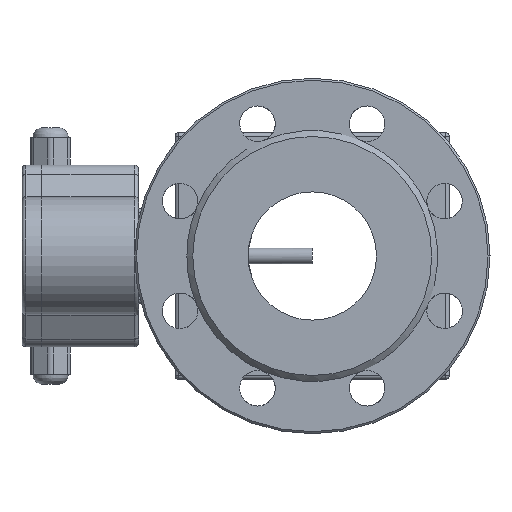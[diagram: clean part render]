
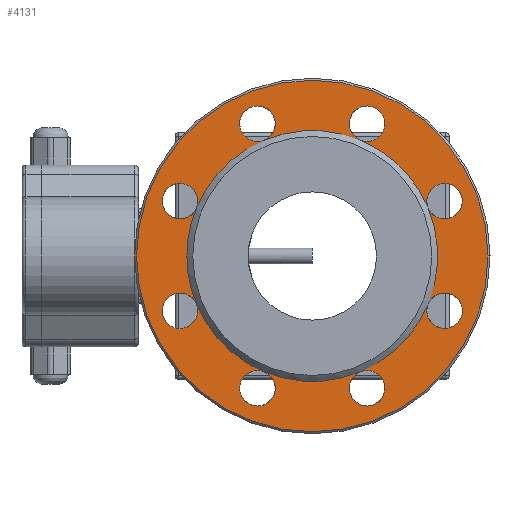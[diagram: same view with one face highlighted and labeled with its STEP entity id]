
A CAD part, left-side view. The second image highlights one B-rep face of the part: STEP entity #4131.
In plain terms, the highlighted planar face has unit normal (-1, 0, 0).
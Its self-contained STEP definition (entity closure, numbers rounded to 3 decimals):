
#4131=ADVANCED_FACE('',(#7934,#7936),#7938,.T.);
#7934=FACE_BOUND('',#7935,.T.);
#7935=EDGE_LOOP('',(#10805));
#7936=FACE_BOUND('',#7937,.T.);
#7937=EDGE_LOOP('',(#10806,#10807,#10808,#10809,#10810,#10811,#10812,#10813,#10814,
#10815,#10816,#10817,#10818,#10819,#10820,#10821,#10822,#10823,#10824,#10825,#10826,
#10827,#10828,#10829,#10830));
#7938=PLANE('',#7939);
#7939=AXIS2_PLACEMENT_3D('',#7940,#7941,#7942);
#7940=CARTESIAN_POINT('',(-117.,0.,0.));
#7941=DIRECTION('',(-1.,-0.,-0.));
#7942=DIRECTION('',(0.,1.,0.));
#10805=ORIENTED_EDGE('',*,*,#12250,.F.);
#10806=ORIENTED_EDGE('',*,*,#12156,.T.);
#10807=ORIENTED_EDGE('',*,*,#12155,.T.);
#10808=ORIENTED_EDGE('',*,*,#12251,.T.);
#10809=ORIENTED_EDGE('',*,*,#12160,.T.);
#10810=ORIENTED_EDGE('',*,*,#12159,.T.);
#10811=ORIENTED_EDGE('',*,*,#12252,.T.);
#10812=ORIENTED_EDGE('',*,*,#12168,.T.);
#10813=ORIENTED_EDGE('',*,*,#12167,.T.);
#10814=ORIENTED_EDGE('',*,*,#12253,.T.);
#10815=ORIENTED_EDGE('',*,*,#12166,.T.);
#10816=ORIENTED_EDGE('',*,*,#12165,.T.);
#10817=ORIENTED_EDGE('',*,*,#12254,.T.);
#10818=ORIENTED_EDGE('',*,*,#12161,.T.);
#10819=ORIENTED_EDGE('',*,*,#12162,.T.);
#10820=ORIENTED_EDGE('',*,*,#12255,.T.);
#10821=ORIENTED_EDGE('',*,*,#12169,.T.);
#10822=ORIENTED_EDGE('',*,*,#12170,.T.);
#10823=ORIENTED_EDGE('',*,*,#12256,.T.);
#10824=ORIENTED_EDGE('',*,*,#12257,.T.);
#10825=ORIENTED_EDGE('',*,*,#12157,.T.);
#10826=ORIENTED_EDGE('',*,*,#12158,.T.);
#10827=ORIENTED_EDGE('',*,*,#12258,.T.);
#10828=ORIENTED_EDGE('',*,*,#12163,.T.);
#10829=ORIENTED_EDGE('',*,*,#12164,.T.);
#10830=ORIENTED_EDGE('',*,*,#12259,.T.);
#12155=EDGE_CURVE('',#14340,#14341,#14342,.F.);
#12156=EDGE_CURVE('',#14341,#14340,#14343,.F.);
#12157=EDGE_CURVE('',#14344,#14345,#14346,.F.);
#12158=EDGE_CURVE('',#14345,#14344,#14347,.F.);
#12159=EDGE_CURVE('',#14348,#14349,#14350,.F.);
#12160=EDGE_CURVE('',#14349,#14348,#14351,.F.);
#12161=EDGE_CURVE('',#14352,#14353,#14354,.F.);
#12162=EDGE_CURVE('',#14353,#14352,#14355,.F.);
#12163=EDGE_CURVE('',#14356,#14357,#14358,.F.);
#12164=EDGE_CURVE('',#14357,#14356,#14359,.F.);
#12165=EDGE_CURVE('',#14360,#14361,#14362,.F.);
#12166=EDGE_CURVE('',#14361,#14360,#14363,.F.);
#12167=EDGE_CURVE('',#14364,#14365,#14366,.F.);
#12168=EDGE_CURVE('',#14365,#14364,#14367,.F.);
#12169=EDGE_CURVE('',#14368,#14369,#14370,.F.);
#12170=EDGE_CURVE('',#14369,#14368,#14371,.F.);
#12250=EDGE_CURVE('',#14504,#14504,#14505,.T.);
#12251=EDGE_CURVE('',#14341,#14349,#14506,.T.);
#12252=EDGE_CURVE('',#14349,#14365,#14507,.T.);
#12253=EDGE_CURVE('',#14365,#14361,#14508,.T.);
#12254=EDGE_CURVE('',#14361,#14352,#14509,.T.);
#12255=EDGE_CURVE('',#14352,#14368,#14510,.T.);
#12256=EDGE_CURVE('',#14368,#14511,#14512,.T.);
#12257=EDGE_CURVE('',#14511,#14344,#14513,.T.);
#12258=EDGE_CURVE('',#14344,#14356,#14514,.T.);
#12259=EDGE_CURVE('',#14356,#14341,#14515,.T.);
#14340=VERTEX_POINT('',#20485);
#14341=VERTEX_POINT('',#20486);
#14342=CIRCLE('',#20487,9.);
#14343=CIRCLE('',#20491,9.);
#14344=VERTEX_POINT('',#20495);
#14345=VERTEX_POINT('',#20496);
#14346=CIRCLE('',#20497,9.);
#14347=CIRCLE('',#20501,9.);
#14348=VERTEX_POINT('',#20505);
#14349=VERTEX_POINT('',#20506);
#14350=CIRCLE('',#20507,9.);
#14351=CIRCLE('',#20511,9.);
#14352=VERTEX_POINT('',#20515);
#14353=VERTEX_POINT('',#20516);
#14354=CIRCLE('',#20517,9.);
#14355=CIRCLE('',#20521,9.);
#14356=VERTEX_POINT('',#20525);
#14357=VERTEX_POINT('',#20526);
#14358=CIRCLE('',#20527,9.);
#14359=CIRCLE('',#20531,9.);
#14360=VERTEX_POINT('',#20535);
#14361=VERTEX_POINT('',#20536);
#14362=CIRCLE('',#20537,9.);
#14363=CIRCLE('',#20541,9.);
#14364=VERTEX_POINT('',#20545);
#14365=VERTEX_POINT('',#20546);
#14366=CIRCLE('',#20547,9.);
#14367=CIRCLE('',#20551,9.);
#14368=VERTEX_POINT('',#20555);
#14369=VERTEX_POINT('',#20556);
#14370=CIRCLE('',#20557,9.);
#14371=CIRCLE('',#20561,9.);
#14504=VERTEX_POINT('',#21114);
#14505=CIRCLE('',#21115,89.);
#14506=CIRCLE('',#21119,63.5);
#14507=CIRCLE('',#21123,63.5);
#14508=CIRCLE('',#21127,63.5);
#14509=CIRCLE('',#21131,63.5);
#14510=CIRCLE('',#21135,63.5);
#14511=VERTEX_POINT('',#21139);
#14512=CIRCLE('',#21140,63.5);
#14513=CIRCLE('',#21144,63.5);
#14514=CIRCLE('',#21148,63.5);
#14515=CIRCLE('',#21152,63.5);
#20485=CARTESIAN_POINT('',(-117.,-27.745,57.981));
#20486=CARTESIAN_POINT('',(-117.,-24.3,58.666));
#20487=AXIS2_PLACEMENT_3D('',#20488,#20489,#20490);
#20488=CARTESIAN_POINT('',(-117.,-27.745,66.981));
#20489=DIRECTION('',(-1.,0.,-0.));
#20490=DIRECTION('',(0.,0.383,-0.924));
#20491=AXIS2_PLACEMENT_3D('',#20492,#20493,#20494);
#20492=CARTESIAN_POINT('',(-117.,-27.745,66.981));
#20493=DIRECTION('',(-1.,0.,-0.));
#20494=DIRECTION('',(0.,0.,-1.));
#20495=CARTESIAN_POINT('',(-117.,58.666,24.3));
#20496=CARTESIAN_POINT('',(-117.,66.981,18.745));
#20497=AXIS2_PLACEMENT_3D('',#20498,#20499,#20500);
#20498=CARTESIAN_POINT('',(-117.,66.981,27.745));
#20499=DIRECTION('',(-1.,0.,-0.));
#20500=DIRECTION('',(0.,0.,-1.));
#20501=AXIS2_PLACEMENT_3D('',#20502,#20503,#20504);
#20502=CARTESIAN_POINT('',(-117.,66.981,27.745));
#20503=DIRECTION('',(-1.,0.,-0.));
#20504=DIRECTION('',(0.,-0.924,-0.383));
#20505=CARTESIAN_POINT('',(-117.,-66.981,18.745));
#20506=CARTESIAN_POINT('',(-117.,-58.666,24.3));
#20507=AXIS2_PLACEMENT_3D('',#20508,#20509,#20510);
#20508=CARTESIAN_POINT('',(-117.,-66.981,27.745));
#20509=DIRECTION('',(-1.,0.,-0.));
#20510=DIRECTION('',(0.,0.924,-0.383));
#20511=AXIS2_PLACEMENT_3D('',#20512,#20513,#20514);
#20512=CARTESIAN_POINT('',(-117.,-66.981,27.745));
#20513=DIRECTION('',(-1.,0.,-0.));
#20514=DIRECTION('',(0.,0.,-1.));
#20515=CARTESIAN_POINT('',(-117.,24.3,-58.666));
#20516=CARTESIAN_POINT('',(-117.,27.745,-75.981));
#20517=AXIS2_PLACEMENT_3D('',#20518,#20519,#20520);
#20518=CARTESIAN_POINT('',(-117.,27.745,-66.981));
#20519=DIRECTION('',(-1.,0.,-0.));
#20520=DIRECTION('',(0.,0.,-1.));
#20521=AXIS2_PLACEMENT_3D('',#20522,#20523,#20524);
#20522=CARTESIAN_POINT('',(-117.,27.745,-66.981));
#20523=DIRECTION('',(-1.,0.,-0.));
#20524=DIRECTION('',(0.,-0.383,0.924));
#20525=CARTESIAN_POINT('',(-117.,24.3,58.666));
#20526=CARTESIAN_POINT('',(-117.,27.745,57.981));
#20527=AXIS2_PLACEMENT_3D('',#20528,#20529,#20530);
#20528=CARTESIAN_POINT('',(-117.,27.745,66.981));
#20529=DIRECTION('',(-1.,0.,-0.));
#20530=DIRECTION('',(0.,0.,-1.));
#20531=AXIS2_PLACEMENT_3D('',#20532,#20533,#20534);
#20532=CARTESIAN_POINT('',(-117.,27.745,66.981));
#20533=DIRECTION('',(-1.,0.,-0.));
#20534=DIRECTION('',(0.,-0.383,-0.924));
#20535=CARTESIAN_POINT('',(-117.,-27.745,-75.981));
#20536=CARTESIAN_POINT('',(-117.,-24.3,-58.666));
#20537=AXIS2_PLACEMENT_3D('',#20538,#20539,#20540);
#20538=CARTESIAN_POINT('',(-117.,-27.745,-66.981));
#20539=DIRECTION('',(-1.,0.,-0.));
#20540=DIRECTION('',(0.,0.383,0.924));
#20541=AXIS2_PLACEMENT_3D('',#20542,#20543,#20544);
#20542=CARTESIAN_POINT('',(-117.,-27.745,-66.981));
#20543=DIRECTION('',(-1.,0.,-0.));
#20544=DIRECTION('',(0.,0.,-1.));
#20545=CARTESIAN_POINT('',(-117.,-66.981,-36.745));
#20546=CARTESIAN_POINT('',(-117.,-58.666,-24.3));
#20547=AXIS2_PLACEMENT_3D('',#20548,#20549,#20550);
#20548=CARTESIAN_POINT('',(-117.,-66.981,-27.745));
#20549=DIRECTION('',(-1.,0.,-0.));
#20550=DIRECTION('',(0.,0.924,0.383));
#20551=AXIS2_PLACEMENT_3D('',#20552,#20553,#20554);
#20552=CARTESIAN_POINT('',(-117.,-66.981,-27.745));
#20553=DIRECTION('',(-1.,0.,-0.));
#20554=DIRECTION('',(0.,0.,-1.));
#20555=CARTESIAN_POINT('',(-117.,58.666,-24.3));
#20556=CARTESIAN_POINT('',(-117.,66.981,-36.745));
#20557=AXIS2_PLACEMENT_3D('',#20558,#20559,#20560);
#20558=CARTESIAN_POINT('',(-117.,66.981,-27.745));
#20559=DIRECTION('',(-1.,0.,-0.));
#20560=DIRECTION('',(0.,0.,-1.));
#20561=AXIS2_PLACEMENT_3D('',#20562,#20563,#20564);
#20562=CARTESIAN_POINT('',(-117.,66.981,-27.745));
#20563=DIRECTION('',(-1.,0.,-0.));
#20564=DIRECTION('',(0.,-0.924,0.383));
#21114=CARTESIAN_POINT('',(-117.,89.,0.));
#21115=AXIS2_PLACEMENT_3D('',#21116,#21117,#21118);
#21116=CARTESIAN_POINT('',(-117.,0.,0.));
#21117=DIRECTION('',(1.,0.,0.));
#21118=DIRECTION('',(0.,1.,0.));
#21119=AXIS2_PLACEMENT_3D('',#21120,#21121,#21122);
#21120=CARTESIAN_POINT('',(-117.,0.,0.));
#21121=DIRECTION('',(1.,0.,0.));
#21122=DIRECTION('',(0.,-0.383,0.924));
#21123=AXIS2_PLACEMENT_3D('',#21124,#21125,#21126);
#21124=CARTESIAN_POINT('',(-117.,0.,0.));
#21125=DIRECTION('',(1.,0.,0.));
#21126=DIRECTION('',(0.,-0.924,0.383));
#21127=AXIS2_PLACEMENT_3D('',#21128,#21129,#21130);
#21128=CARTESIAN_POINT('',(-117.,0.,0.));
#21129=DIRECTION('',(1.,0.,0.));
#21130=DIRECTION('',(0.,-0.924,-0.383));
#21131=AXIS2_PLACEMENT_3D('',#21132,#21133,#21134);
#21132=CARTESIAN_POINT('',(-117.,0.,0.));
#21133=DIRECTION('',(1.,0.,0.));
#21134=DIRECTION('',(0.,-0.383,-0.924));
#21135=AXIS2_PLACEMENT_3D('',#21136,#21137,#21138);
#21136=CARTESIAN_POINT('',(-117.,0.,0.));
#21137=DIRECTION('',(1.,0.,0.));
#21138=DIRECTION('',(0.,0.383,-0.924));
#21139=CARTESIAN_POINT('',(-117.,63.5,0.));
#21140=AXIS2_PLACEMENT_3D('',#21141,#21142,#21143);
#21141=CARTESIAN_POINT('',(-117.,0.,0.));
#21142=DIRECTION('',(1.,0.,0.));
#21143=DIRECTION('',(0.,0.924,-0.383));
#21144=AXIS2_PLACEMENT_3D('',#21145,#21146,#21147);
#21145=CARTESIAN_POINT('',(-117.,0.,0.));
#21146=DIRECTION('',(1.,0.,0.));
#21147=DIRECTION('',(0.,1.,0.));
#21148=AXIS2_PLACEMENT_3D('',#21149,#21150,#21151);
#21149=CARTESIAN_POINT('',(-117.,0.,0.));
#21150=DIRECTION('',(1.,0.,0.));
#21151=DIRECTION('',(0.,0.924,0.383));
#21152=AXIS2_PLACEMENT_3D('',#21153,#21154,#21155);
#21153=CARTESIAN_POINT('',(-117.,0.,0.));
#21154=DIRECTION('',(1.,0.,0.));
#21155=DIRECTION('',(0.,0.383,0.924));
